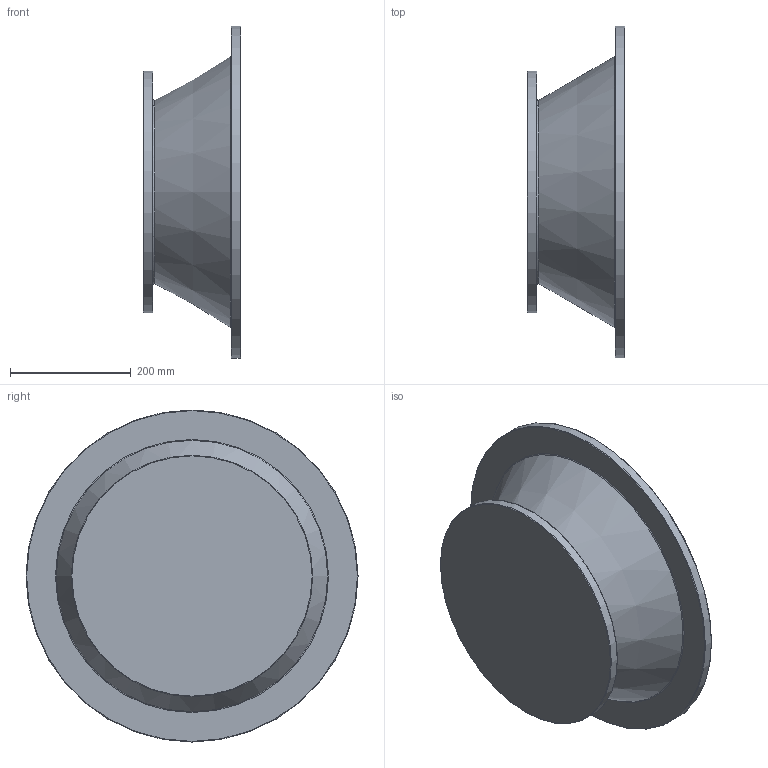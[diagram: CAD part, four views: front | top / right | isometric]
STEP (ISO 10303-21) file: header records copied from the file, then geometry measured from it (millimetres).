
FILE_DESCRIPTION((''),'2;1');
FILE_NAME('D:\PAWEŁ\ZLECENIA\2011 DualSystem\Przekładnie DR\DR130\STEP\250_B5_L161,5.stp','2012-06-11T12:53:06',('admin'),(''),'Autodesk Inventor 2009','Autodesk Inventor 2009','');
FILE_SCHEMA(('AUTOMOTIVE_DESIGN { 1 0 10303 214 1 1 1 1 }'));
Length unit declared in the file: millimetre
Products named in the file (1): 250_B5_L161,5
Bounding box: 161.5 x 550 x 550 mm (x, y, z)
Volume: 4890732.3 mm3; surface area: 895465.1 mm2
Topology: 1 solids, 1 shells, 42 faces, 70 edges, 44 vertices
Faces by surface type: bspline 18, plane 11, cylinder 6, torus 5, cone 2
Full cylindrical faces by diameter (mm): 90 x1, 400 x1, 436.133 x1, 450 x1, 550 x1
Entity records: 1131 total; most frequent: CARTESIAN_POINT 401, DIRECTION 136, ORIENTED_EDGE 96, EDGE_LOOP 78, AXIS2_PLACEMENT_3D 63, EDGE_CURVE 48, VERTEX_POINT 44, FACE_OUTER_BOUND 42
